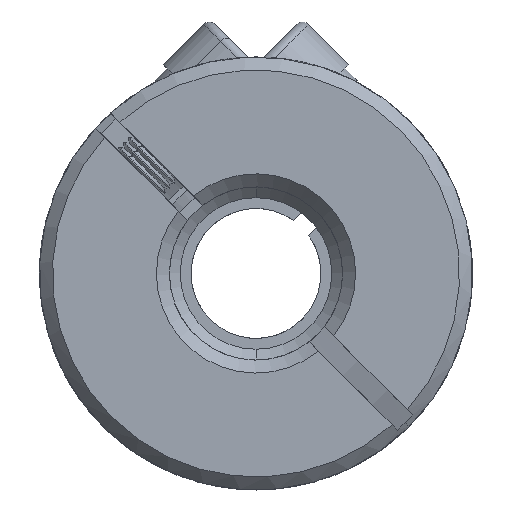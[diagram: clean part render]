
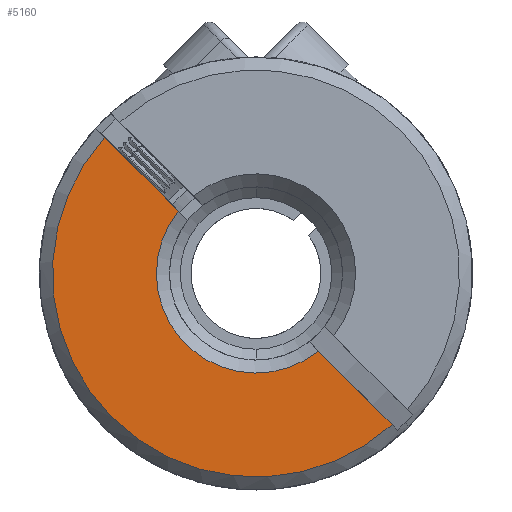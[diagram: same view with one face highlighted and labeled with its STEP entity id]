
A CAD part, front view. The second image highlights one B-rep face of the part: STEP entity #5160.
In plain terms, the highlighted planar face has unit normal (0, -1, 0).
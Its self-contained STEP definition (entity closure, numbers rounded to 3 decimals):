
#1203 = DIRECTION ( 'NONE',  ( 0., -1., 0. ) ) ;
#1269 = EDGE_CURVE ( 'NONE', #5314, #2970, #10423, .T. ) ;
#1529 = DIRECTION ( 'NONE',  ( -0.707, 0., 0.707 ) ) ;
#2028 = CIRCLE ( 'NONE', #2743, 9.4 ) ;
#2030 = EDGE_CURVE ( 'NONE', #2970, #3978, #7476, .T. ) ;
#2743 = AXIS2_PLACEMENT_3D ( 'NONE', #12856, #8296, #11717 ) ;
#2970 = VERTEX_POINT ( 'NONE', #13491 ) ;
#3461 = EDGE_LOOP ( 'NONE', ( #7167, #6080, #9261, #11851 ) ) ;
#3978 = VERTEX_POINT ( 'NONE', #4174 ) ;
#4174 = CARTESIAN_POINT ( 'NONE',  ( -3.587, -11.2, 2.88 ) ) ;
#4421 = CARTESIAN_POINT ( 'NONE',  ( 0.205, -11.2, -0.912 ) ) ;
#4982 = VECTOR ( 'NONE', #1529, 1000. ) ;
#5160 = ADVANCED_FACE ( 'NONE', ( #9770 ), #5778, .T. ) ;
#5314 = VERTEX_POINT ( 'NONE', #11993 ) ;
#5601 = VECTOR ( 'NONE', #5626, 1000. ) ;
#5626 = DIRECTION ( 'NONE',  ( -0.707, 0., 0.707 ) ) ;
#5778 = PLANE ( 'NONE',  #14243 ) ;
#5904 = CARTESIAN_POINT ( 'NONE',  ( -6.991, -11.2, 6.284 ) ) ;
#6000 = CARTESIAN_POINT ( 'NONE',  ( 0., -11.2, 0. ) ) ;
#6080 = ORIENTED_EDGE ( 'NONE', *, *, #10823, .T. ) ;
#7031 = DIRECTION ( 'NONE',  ( -0.707, 0., 0.707 ) ) ;
#7166 = DIRECTION ( 'NONE',  ( 0., 1., 0. ) ) ;
#7167 = ORIENTED_EDGE ( 'NONE', *, *, #11980, .T. ) ;
#7416 = AXIS2_PLACEMENT_3D ( 'NONE', #6000, #7166, #9568 ) ;
#7476 = CIRCLE ( 'NONE', #7416, 4.6 ) ;
#8210 = CARTESIAN_POINT ( 'NONE',  ( 45.083, -11.2, 25.627 ) ) ;
#8296 = DIRECTION ( 'NONE',  ( 0., -1., 0. ) ) ;
#9261 = ORIENTED_EDGE ( 'NONE', *, *, #1269, .T. ) ;
#9568 = DIRECTION ( 'NONE',  ( -0.707, 0., 0.707 ) ) ;
#9770 = FACE_OUTER_BOUND ( 'NONE', #3461, .T. ) ;
#10423 = LINE ( 'NONE', #13045, #4982 ) ;
#10823 = EDGE_CURVE ( 'NONE', #14364, #5314, #2028, .T. ) ;
#11717 = DIRECTION ( 'NONE',  ( -0.707, 0., 0.707 ) ) ;
#11851 = ORIENTED_EDGE ( 'NONE', *, *, #2030, .T. ) ;
#11980 = EDGE_CURVE ( 'NONE', #3978, #14364, #14458, .T. ) ;
#11993 = CARTESIAN_POINT ( 'NONE',  ( 6.284, -11.2, -6.991 ) ) ;
#12856 = CARTESIAN_POINT ( 'NONE',  ( 0., -11.2, 0. ) ) ;
#13045 = CARTESIAN_POINT ( 'NONE',  ( -8.839, -11.2, 8.132 ) ) ;
#13491 = CARTESIAN_POINT ( 'NONE',  ( 2.88, -11.2, -3.587 ) ) ;
#14243 = AXIS2_PLACEMENT_3D ( 'NONE', #8210, #1203, #7031 ) ;
#14364 = VERTEX_POINT ( 'NONE', #5904 ) ;
#14458 = LINE ( 'NONE', #4421, #5601 ) ;
